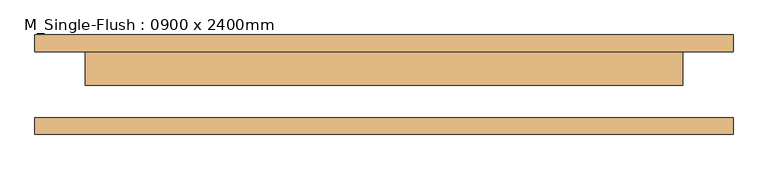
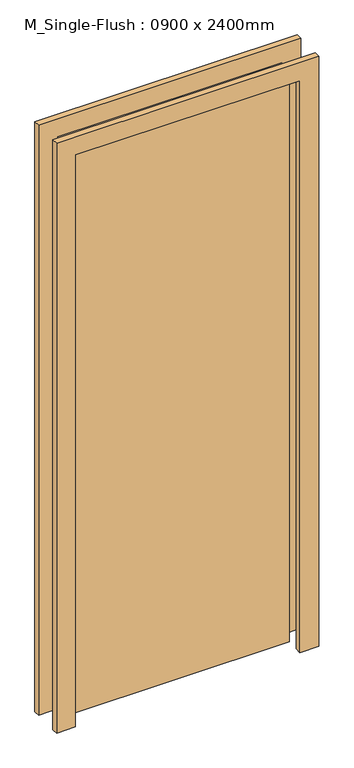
"""IFC4 building model written with IfcOpenShell, lengths in millimetres: door geometry, M_Single-Flush : 0900 x 2400mm."""

from ifc_helpers import new_model, si_unit, frame, origin, origin_with_axes, place, context, project, spatial, polyline, outline, extrude, source, transform, mapped, element, save


def m_single_flush_0900_x_2400mm_0b92c57d(model_context):
    return source(origin(), model_context, "Body", "SweptSolid", [
        extrude(outline(polyline([(450.0, -1.0), (-450.0, -1.0), (-450.0, 50.0), (450.0, 50.0), (450.0, -1.0)])), origin_with_axes(), (0.0, 0.0, 1.0), 2425.0),
        extrude(outline(polyline([(2501.0, -526.0), (0.0, -526.0), (0.0, -450.0), (2425.0, -450.0), (2425.0, 450.0), (0.0, 450.0), (0.0, 526.0), (2501.0, 526.0), (2501.0, -526.0)])), frame((0.0, 50.0, 0.0), z_axis=(0.0, 1.0, 0.0), x_axis=(0.0, 0.0, 1.0)), (0.0, 0.0, 1.0), 25.0),
        extrude(outline(polyline([(2501.0, 526.0), (2501.0, -526.0), (0.0, -526.0), (0.0, -450.0), (2425.0, -450.0), (2425.0, 450.0), (0.0, 450.0), (0.0, 526.0), (2501.0, 526.0)])), frame((0.0, -75.0, 0.0), z_axis=(0.0, 1.0, 0.0), x_axis=(0.0, 0.0, 1.0)), (0.0, 0.0, 1.0), 25.0),
    ])


if __name__ == "__main__":
    model = new_model("IFC4")
    model_context = context("Model", 3, world=origin())
    ifc_project = project(units=[si_unit("LENGTHUNIT", "METRE", prefix="MILLI")], contexts=[model_context])
    site = spatial("IfcSite", under=ifc_project)
    building = spatial("IfcBuilding", under=site)
    placement = place(None, origin())
    m_single_flush_0900_x_2400mm_shape = m_single_flush_0900_x_2400mm_0b92c57d(model_context)
    element("IfcDoor", 1, ObjectType="M_Single-Flush : 0900 x 2400mm", at=placement, inside=building, context=model_context, shape_type="MappedRepresentation", body=[
        mapped(m_single_flush_0900_x_2400mm_shape, transform((0.0, 0.0, 0.0), x_axis=(1.0, 0.0, 0.0), y_axis=(0.0, 1.0, 0.0), z_axis=(0.0, 0.0, 1.0))),
    ])
    save(model, "model.ifc")
